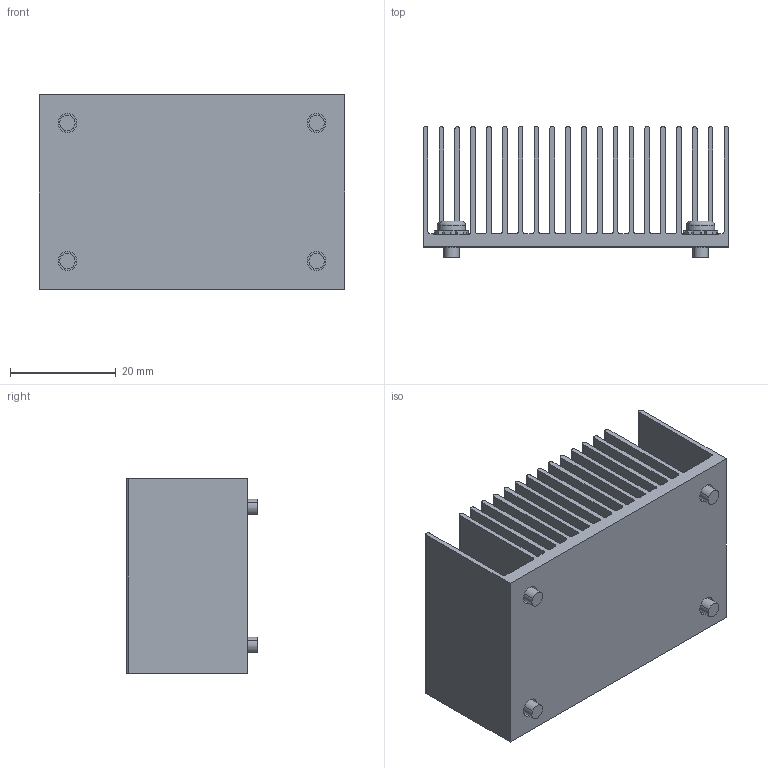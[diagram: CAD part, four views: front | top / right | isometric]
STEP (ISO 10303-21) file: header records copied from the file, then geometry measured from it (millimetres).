
FILE_DESCRIPTION (( 'STEP AP214' ), '1' );
FILE_NAME ('HS1574EBK05.STEP', '2023-03-03T16:27:58', ( '' ), ( '' ), 'SwSTEP 2.0', 'SolidWorks 2020', '' );
FILE_SCHEMA (( 'AUTOMOTIVE_DESIGN' ));
Length unit declared in the file: millimetre
Products named in the file (1): HS1574EBK05
Bounding box: 57.91 x 24.81 x 36.83 mm (x, y, z)
Volume: 17644 mm3; surface area: 32752.8 mm2
Topology: 5 solids, 5 shells, 540 faces, 1429 edges, 907 vertices
Faces by surface type: plane 386, cylinder 146, torus 8
Entity records: 22625 total; most frequent: CARTESIAN_POINT 2953, DIRECTION 2869, ORIENTED_EDGE 2858, EDGE_CURVE 1429, LINE 1049, VECTOR 1049, AXIS2_PLACEMENT_3D 910, VERTEX_POINT 907
